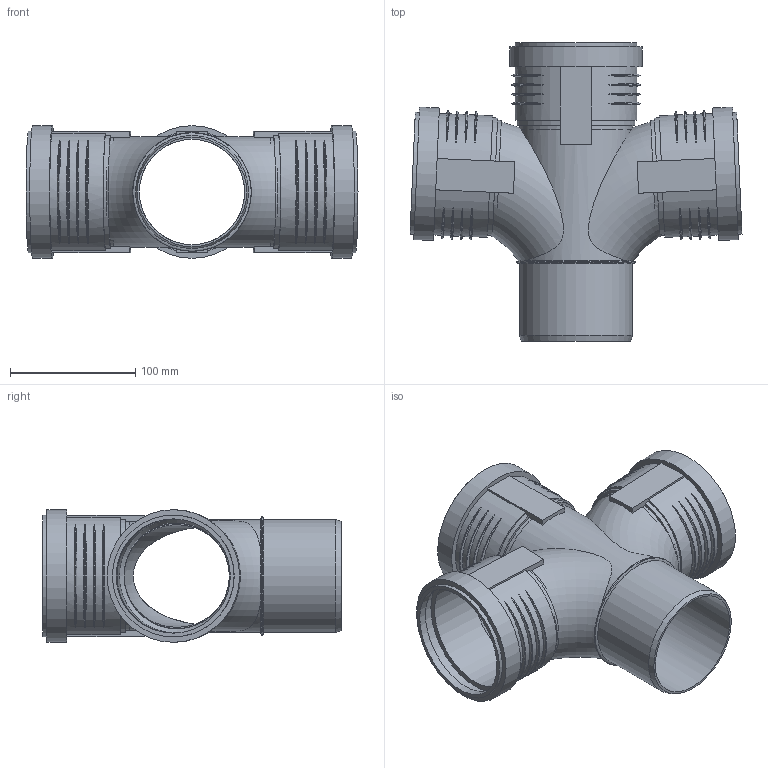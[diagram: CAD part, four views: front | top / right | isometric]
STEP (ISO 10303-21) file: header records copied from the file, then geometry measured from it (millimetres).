
FILE_DESCRIPTION(/* description */ (''),/* implementation_level */ '2;1');
FILE_NAME(/* name */ 'Z:\Geberit\Export\NewStep\390466.stp',/* time_stamp */ '2014-04-02T08:13:30+02:00',/* author */ ('ML'),/* organization */ (''),/* preprocessor_version */ 'ST-DEVELOPER v15.2',/* originating_system */ 'Autodesk Inventor 2014',/* authorisation */ '');
FILE_SCHEMA (('AUTOMOTIVE_DESIGN { 1 0 10303 214 3 1 1 }'));
Length unit declared in the file: millimetre
Products named in the file (3): 861366; 861403; 390466
Bounding box: 264.92 x 237.95 x 105.8 mm (x, y, z)
Volume: 406723.7 mm3; surface area: 274816.6 mm2
Topology: 4 solids, 4 shells, 198 faces, 479 edges, 327 vertices
Faces by surface type: torus 79, plane 69, cylinder 46, cone 4
Full cylindrical faces by diameter (mm): 84 x3, 84.2 x3, 90.2 x7, 91.2 x6, 97.2 x3, 99.8 x3, 105.8 x3
Entity records: 3696 total; most frequent: CARTESIAN_POINT 1702, DIRECTION 368, ORIENTED_EDGE 352, EDGE_CURVE 176, AXIS2_PLACEMENT_3D 166, EDGE_LOOP 132, VERTEX_POINT 128, STYLED_ITEM 90
